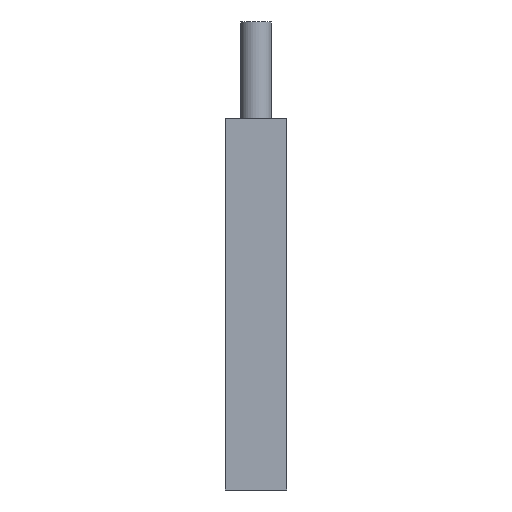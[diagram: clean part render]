
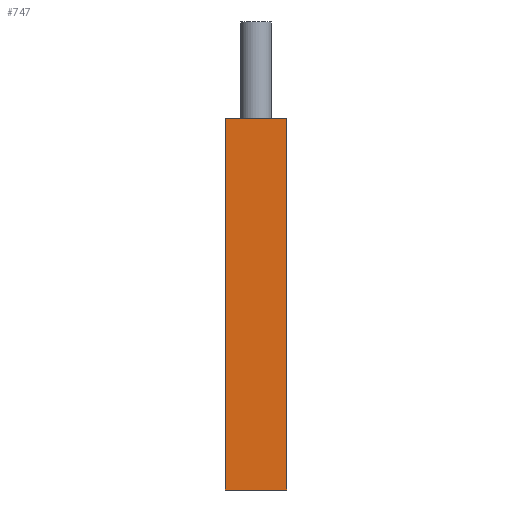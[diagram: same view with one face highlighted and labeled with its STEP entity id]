
A CAD part, front view. The second image highlights one B-rep face of the part: STEP entity #747.
In plain terms, the highlighted planar face has unit normal (0, -1, 0) as drawn and (0, 0, 1) by its records, which use the part's own axes.
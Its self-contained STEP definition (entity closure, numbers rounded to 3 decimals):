
#79 = EDGE_LOOP ( 'NONE', ( #1123, #903, #534, #867 ) ) ;
#86 = CARTESIAN_POINT ( 'NONE',  ( 10., 120., 10. ) ) ;
#130 = FACE_OUTER_BOUND ( 'NONE', #79, .T. ) ;
#169 = VECTOR ( 'NONE', #1121, 1000. ) ;
#182 = LINE ( 'NONE', #1171, #1086 ) ;
#215 = DIRECTION ( 'NONE',  ( 0., -1., 0. ) ) ;
#229 = DIRECTION ( 'NONE',  ( 0., -1., 0. ) ) ;
#287 = CARTESIAN_POINT ( 'NONE',  ( -10., 0., 10. ) ) ;
#354 = CARTESIAN_POINT ( 'NONE',  ( 10., 120., 10. ) ) ;
#385 = AXIS2_PLACEMENT_3D ( 'NONE', #86, #433, #1208 ) ;
#433 = DIRECTION ( 'NONE',  ( 0., 0., 1. ) ) ;
#534 = ORIENTED_EDGE ( 'NONE', *, *, #1453, .T. ) ;
#571 = VERTEX_POINT ( 'NONE', #287 ) ;
#584 = EDGE_CURVE ( 'NONE', #1095, #571, #758, .T. ) ;
#702 = EDGE_CURVE ( 'NONE', #898, #571, #923, .T. ) ;
#731 = VECTOR ( 'NONE', #1412, 1000. ) ;
#747 = ADVANCED_FACE ( 'NONE', ( #130 ), #803, .T. ) ;
#758 = LINE ( 'NONE', #1004, #1511 ) ;
#803 = PLANE ( 'NONE',  #385 ) ;
#822 = CARTESIAN_POINT ( 'NONE',  ( -10., 120., 10. ) ) ;
#867 = ORIENTED_EDGE ( 'NONE', *, *, #584, .T. ) ;
#896 = CARTESIAN_POINT ( 'NONE',  ( 10., 0., 10. ) ) ;
#898 = VERTEX_POINT ( 'NONE', #1046 ) ;
#903 = ORIENTED_EDGE ( 'NONE', *, *, #1292, .F. ) ;
#923 = LINE ( 'NONE', #896, #169 ) ;
#1004 = CARTESIAN_POINT ( 'NONE',  ( -10., 120., 10. ) ) ;
#1043 = LINE ( 'NONE', #354, #731 ) ;
#1046 = CARTESIAN_POINT ( 'NONE',  ( 10., 0., 10. ) ) ;
#1086 = VECTOR ( 'NONE', #229, 1000. ) ;
#1095 = VERTEX_POINT ( 'NONE', #822 ) ;
#1121 = DIRECTION ( 'NONE',  ( -1., 0., 0. ) ) ;
#1123 = ORIENTED_EDGE ( 'NONE', *, *, #702, .F. ) ;
#1171 = CARTESIAN_POINT ( 'NONE',  ( 10., 120., 10. ) ) ;
#1208 = DIRECTION ( 'NONE',  ( 1., 0., 0. ) ) ;
#1234 = VERTEX_POINT ( 'NONE', #1448 ) ;
#1292 = EDGE_CURVE ( 'NONE', #1234, #898, #182, .T. ) ;
#1412 = DIRECTION ( 'NONE',  ( -1., 0., 0. ) ) ;
#1448 = CARTESIAN_POINT ( 'NONE',  ( 10., 120., 10. ) ) ;
#1453 = EDGE_CURVE ( 'NONE', #1234, #1095, #1043, .T. ) ;
#1511 = VECTOR ( 'NONE', #215, 1000. ) ;
